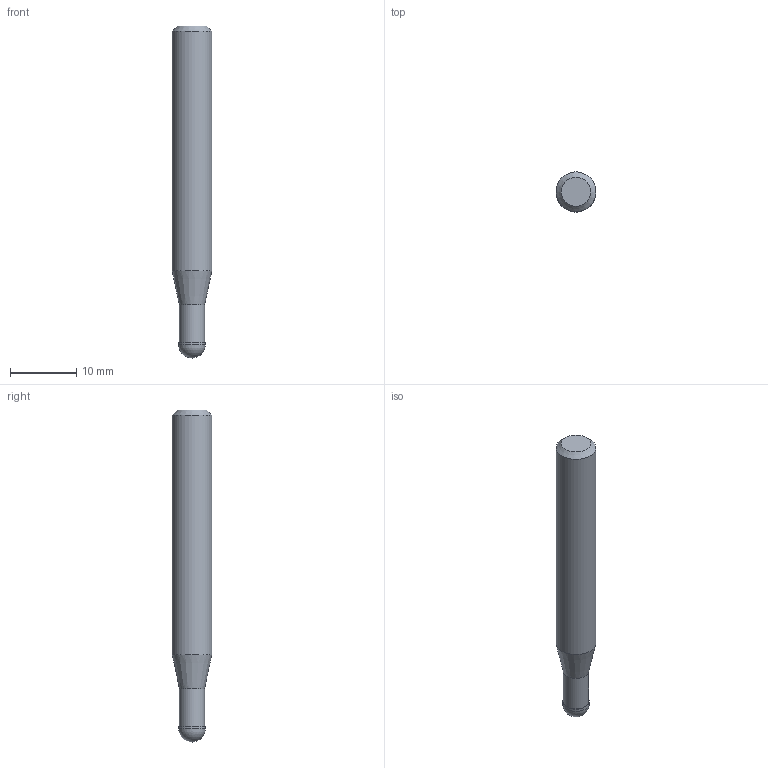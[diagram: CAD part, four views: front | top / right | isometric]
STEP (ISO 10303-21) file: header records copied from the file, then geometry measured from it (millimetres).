
FILE_DESCRIPTION((''),'2;1');
FILE_NAME('C:\Users\nsx150\AppData\Local\Temp\Mastercam 2021\LJSIDMOTM8\TEMP.step','2021-08-03T14:23:17',(''),(''),'STEP Write','Mastercam 2021 ... CNC Software, Inc.','');
FILE_SCHEMA(('AUTOMOTIVE_DESIGN'));
Length unit declared in the file: millimetre
Products named in the file (1): None
Bounding box: 6 x 6 x 50 mm (x, y, z)
Volume: 1220.2 mm3; surface area: 915.1 mm2
Topology: 2 solids, 2 shells, 9 faces, 14 edges, 8 vertices
Faces by surface type: plane 3, cylinder 3, cone 2, sphere 1
Full cylindrical faces by diameter (mm): 3.8 x1, 4 x1, 6 x1
Entity records: 211 total; most frequent: DIRECTION 36, CARTESIAN_POINT 25, AXIS2_PLACEMENT_3D 18, ORIENTED_EDGE 14, EDGE_LOOP 14, STYLED_ITEM 12, ADVANCED_FACE 9, FACE_BOUND 8
